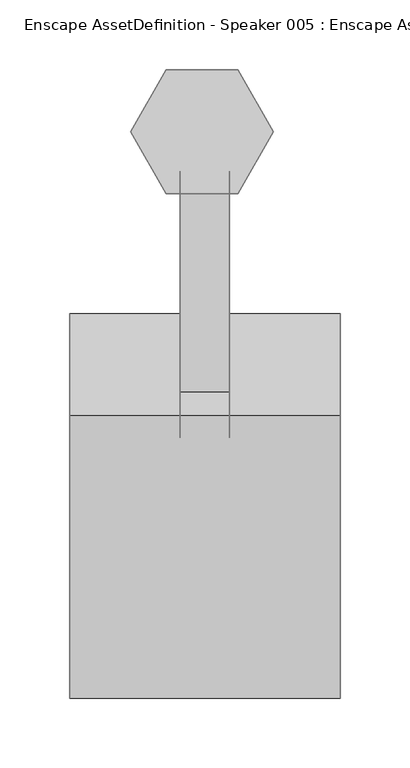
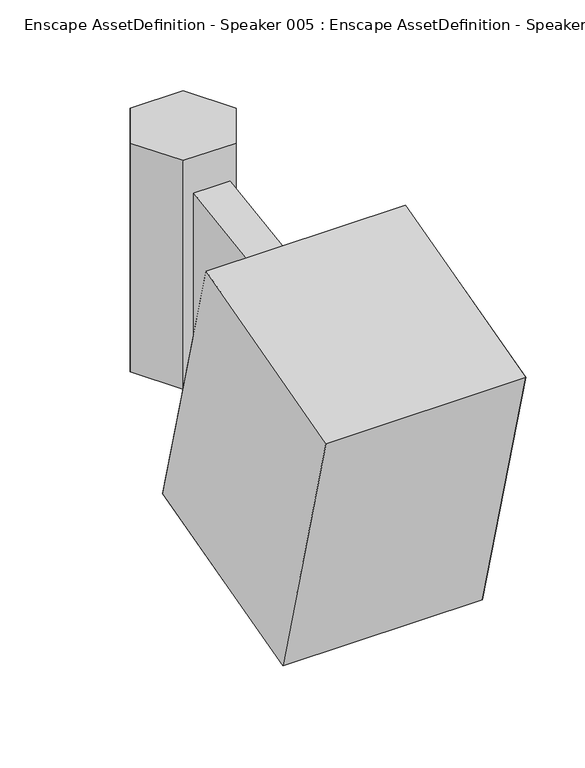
"""IFC4 building model written with IfcOpenShell, lengths in millimetres: geographic element geometry, Enscape AssetDefinition - Speaker 005 : Enscape AssetDefinition - Speaker 005."""

from ifc_helpers import new_model, si_unit, origin, place, context, project, spatial, triangles, source, transform, mapped, element, save


def enscape_assetdefinition_speaker_005_enscape_assetdefinition_121e6e26(model_context):
    return source(origin(), model_context, "Body", "Tessellation", [
        triangles([(99.4954985, -334.2219687, -200.8535468), (-95.4770937, -407.6124744, 73.0417989), (-95.4770937, -334.2219687, -200.8535468), (-95.4770937, -130.9110955, -146.376912), (99.4954985, -130.9110955, -146.376912), (-95.4770937, -204.2999934, 127.5184337), (99.4954985, -204.2999934, 127.5184337), (99.4954985, -407.6124744, 73.0417989), (-15.8210512, -76.9102855, -73.4084417), (-15.8210512, -177.5774058, -100.3819542), (-15.8210512, -220.1438483, 58.4803648), (19.8410877, -177.5774058, -100.3819542), (19.8410877, -76.9102855, -73.4084417), (-15.8210512, -28.2934311, -91.8416143), (19.8410877, -28.2934311, -91.8416143), (19.8410877, -31.674695, 85.8628913), (19.8410877, -220.1438483, 58.4803648), (-15.8210512, -31.674695, 85.8628913), (-25.7758136, 44.6440818, -115.4273567), (-25.7758136, -44.6440818, -115.4273567), (-51.5516271, 0.0, -115.4273567), (25.7741876, -44.6440818, 120.8536697), (-51.5516271, 0.0, 120.8536697), (51.5500012, 0.0, -115.4273567), (-25.7758136, 44.6440818, 120.8536697), (-25.7758136, -44.6440818, 120.8536697), (25.7741876, -44.6440818, -115.4273567), (25.7741876, 44.6440818, -115.4273567), (51.5500012, 0.0, 120.8536697), (25.7741876, 44.6440818, 120.8536697)], [[29, 30, 25], [25, 30, 28], [30, 29, 24], [24, 28, 30], [27, 24, 29], [29, 22, 27], [22, 29, 26], [29, 25, 26], [25, 23, 26], [23, 25, 19], [28, 19, 25], [19, 28, 24], [26, 23, 21], [19, 21, 23], [22, 26, 20], [20, 27, 22], [21, 20, 26], [27, 20, 24], [20, 19, 24], [20, 21, 19], [16, 18, 11], [11, 17, 16], [16, 17, 12], [13, 15, 16], [14, 15, 13], [12, 13, 16], [11, 18, 9], [9, 10, 11], [13, 9, 14], [14, 9, 18], [12, 10, 9], [9, 13, 12], [7, 6, 2], [2, 8, 7], [7, 8, 1], [6, 7, 5], [1, 5, 7], [2, 6, 4], [5, 4, 6], [4, 3, 2], [8, 2, 3], [3, 1, 8], [5, 1, 3], [3, 4, 5]], closed=False),
    ])


if __name__ == "__main__":
    model = new_model("IFC4")
    model_context = context("Model", 3, world=origin())
    ifc_project = project(units=[si_unit("LENGTHUNIT", "METRE", prefix="MILLI")], contexts=[model_context])
    site = spatial("IfcSite", under=ifc_project)
    building = spatial("IfcBuilding", under=site)
    placement = place(None, origin())
    enscape_assetdefinition_speaker_005_enscape_assetdefinition_shape = enscape_assetdefinition_speaker_005_enscape_assetdefinition_121e6e26(model_context)
    element("IfcGeographicElement", 1, ObjectType="Enscape AssetDefinition - Speaker 005 : Enscape AssetDefinition - Speaker 005", at=placement, inside=building, context=model_context, shape_type="MappedRepresentation", body=[
        mapped(enscape_assetdefinition_speaker_005_enscape_assetdefinition_shape, transform((0.0, 0.0, 0.0), x_axis=(1.0, 0.0, 0.0), y_axis=(0.0, 1.0, 0.0), z_axis=(0.0, 0.0, 1.0))),
    ])
    save(model, "model.ifc")
